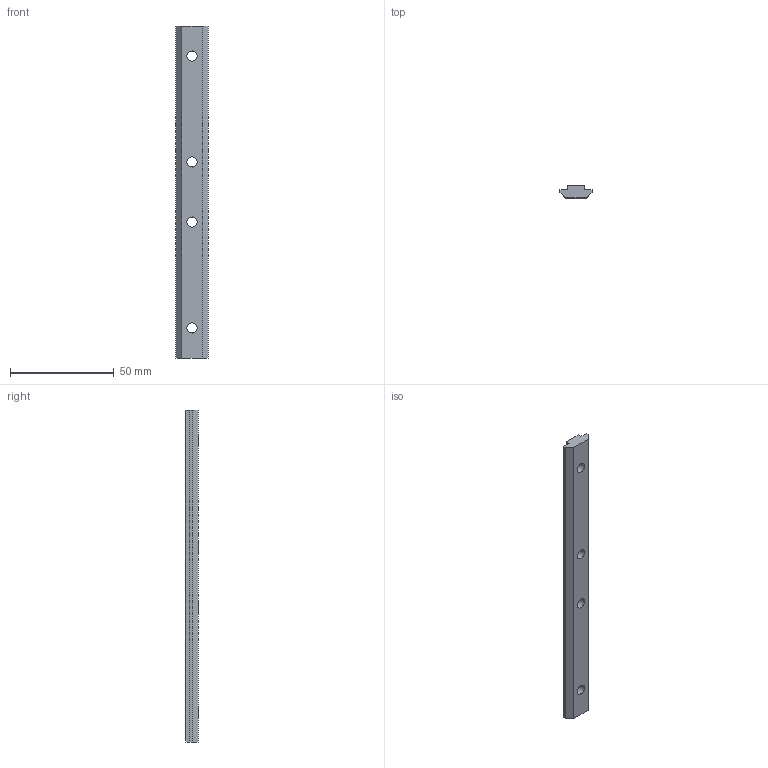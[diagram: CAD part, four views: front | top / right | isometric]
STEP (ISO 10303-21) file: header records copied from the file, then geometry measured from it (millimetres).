
FILE_DESCRIPTION((''),'2;1');
FILE_NAME('E:\catalogue and flyer\Profile catalogue 2015\Accessories JE info\Accessories-JE step file 31MAr16\JE-Joint Connector-8_3030.stp','2016-04-07T09:02:59',('h029'),(''),'Autodesk Inventor 11','Autodesk Inventor 11','');
FILE_SCHEMA(('AUTOMOTIVE_DESIGN { 1 0 10303 214 1 1 1 1 }'));
Length unit declared in the file: millimetre
Products named in the file (1): JE-Joint Connector-8_3030
Bounding box: 15.5 x 5.9 x 160 mm (x, y, z)
Volume: 10663.6 mm3; surface area: 6684 mm2
Topology: 1 solids, 1 shells, 16 faces, 46 edges, 32 vertices
Faces by surface type: plane 12, bspline 4
Entity records: 565 total; most frequent: CARTESIAN_POINT 151, ORIENTED_EDGE 76, DIRECTION 72, EDGE_CURVE 38, VECTOR 30, LINE 30, VERTEX_POINT 28, EDGE_LOOP 28
